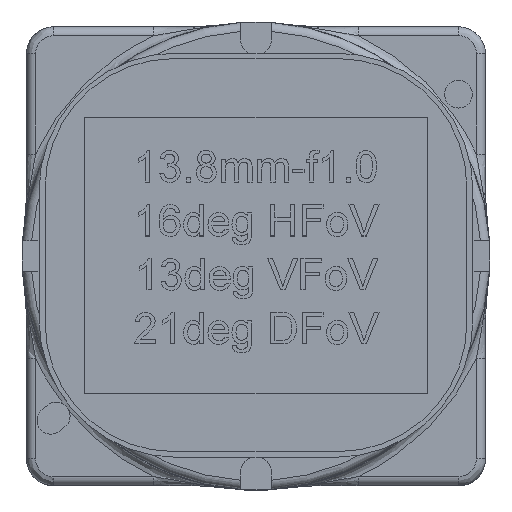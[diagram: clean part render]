
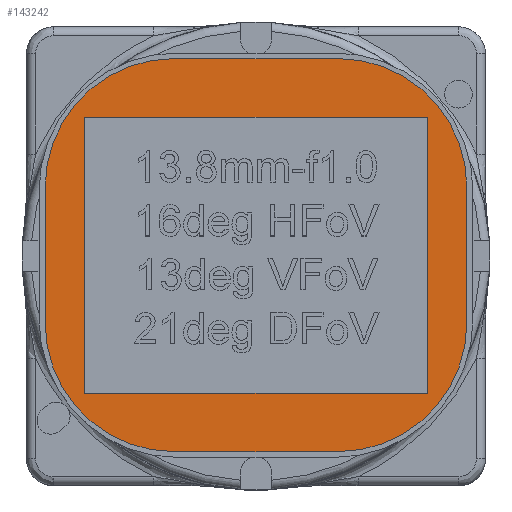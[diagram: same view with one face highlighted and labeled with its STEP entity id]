
A CAD part, top view. The second image highlights one B-rep face of the part: STEP entity #143242.
In plain terms, the highlighted planar face has unit normal (0, 0, 1).
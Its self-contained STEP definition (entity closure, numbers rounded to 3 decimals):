
#1724 = EDGE_CURVE ( 'NONE', #188745, #3513, #164286, .T. ) ;
#3513 = VERTEX_POINT ( 'NONE', #54895 ) ;
#5474 = CARTESIAN_POINT ( 'NONE',  ( -4.578, 10.918, 37.5 ) ) ;
#9085 = CARTESIAN_POINT ( 'NONE',  ( 4.578, 3.78, 37.5 ) ) ;
#9433 = EDGE_CURVE ( 'NONE', #31171, #166059, #131539, .T. ) ;
#11350 = CARTESIAN_POINT ( 'NONE',  ( -9.526, -7.666, 37.5 ) ) ;
#12807 = ORIENTED_EDGE ( 'NONE', *, *, #114591, .F. ) ;
#13639 = CARTESIAN_POINT ( 'NONE',  ( 9.526, 7.666, 37.5 ) ) ;
#14367 = FACE_BOUND ( 'NONE', #24774, .T. ) ;
#17629 = VECTOR ( 'NONE', #172258, 1000. ) ;
#18169 = VECTOR ( 'NONE', #26544, 1000. ) ;
#18652 = CARTESIAN_POINT ( 'NONE',  ( 4.578, -10.918, 37.5 ) ) ;
#19014 = FACE_OUTER_BOUND ( 'NONE', #47348, .T. ) ;
#22780 = LINE ( 'NONE', #144827, #18169 ) ;
#23110 = ORIENTED_EDGE ( 'NONE', *, *, #101807, .T. ) ;
#24010 = DIRECTION ( 'NONE',  ( -1., 0., 0. ) ) ;
#24774 = EDGE_LOOP ( 'NONE', ( #169963, #46962, #174154, #12807 ) ) ;
#26544 = DIRECTION ( 'NONE',  ( 0., -1., 0. ) ) ;
#28900 = CIRCLE ( 'NONE', #125350, 7.139 ) ;
#31171 = VERTEX_POINT ( 'NONE', #11350 ) ;
#32591 = VERTEX_POINT ( 'NONE', #93371 ) ;
#33169 = VERTEX_POINT ( 'NONE', #190156 ) ;
#33388 = EDGE_CURVE ( 'NONE', #33627, #33169, #120262, .T. ) ;
#33627 = VERTEX_POINT ( 'NONE', #13639 ) ;
#37740 = DIRECTION ( 'NONE',  ( 0., 0., 1. ) ) ;
#38530 = VECTOR ( 'NONE', #130622, 1000. ) ;
#39161 = EDGE_CURVE ( 'NONE', #134899, #73203, #114900, .T. ) ;
#41236 = CARTESIAN_POINT ( 'NONE',  ( 4.578, 3.78, 37.5 ) ) ;
#43879 = CARTESIAN_POINT ( 'NONE',  ( -4.578, 3.78, 37.5 ) ) ;
#44410 = CARTESIAN_POINT ( 'NONE',  ( 4.578, -10.918, 37.5 ) ) ;
#44777 = ORIENTED_EDGE ( 'NONE', *, *, #83854, .T. ) ;
#46929 = DIRECTION ( 'NONE',  ( 0., 0., 1. ) ) ;
#46962 = ORIENTED_EDGE ( 'NONE', *, *, #96251, .F. ) ;
#47348 = EDGE_LOOP ( 'NONE', ( #88869, #78434, #44777, #99663, #91217, #88371, #23110, #158693 ) ) ;
#52993 = CARTESIAN_POINT ( 'NONE',  ( -4.578, 10.918, 37.5 ) ) ;
#54895 = CARTESIAN_POINT ( 'NONE',  ( -4.578, -10.918, 37.5 ) ) ;
#56167 = DIRECTION ( 'NONE',  ( -1., 0., 0. ) ) ;
#58841 = DIRECTION ( 'NONE',  ( -1., 0., 0. ) ) ;
#68079 = AXIS2_PLACEMENT_3D ( 'NONE', #135479, #46929, #150310 ) ;
#73203 = VERTEX_POINT ( 'NONE', #136704 ) ;
#76308 = CARTESIAN_POINT ( 'NONE',  ( 11.716, 3.78, 37.5 ) ) ;
#78434 = ORIENTED_EDGE ( 'NONE', *, *, #126092, .T. ) ;
#81571 = CARTESIAN_POINT ( 'NONE',  ( -11.716, -3.78, 37.5 ) ) ;
#83854 = EDGE_CURVE ( 'NONE', #115203, #91640, #28900, .T. ) ;
#83886 = LINE ( 'NONE', #52993, #157926 ) ;
#86125 = LINE ( 'NONE', #106732, #160146 ) ;
#88339 = LINE ( 'NONE', #44410, #162334 ) ;
#88371 = ORIENTED_EDGE ( 'NONE', *, *, #100491, .T. ) ;
#88869 = ORIENTED_EDGE ( 'NONE', *, *, #39161, .T. ) ;
#91217 = ORIENTED_EDGE ( 'NONE', *, *, #1724, .T. ) ;
#91640 = VERTEX_POINT ( 'NONE', #96406 ) ;
#93140 = CARTESIAN_POINT ( 'NONE',  ( 9.526, -7.666, 37.5 ) ) ;
#93182 = DIRECTION ( 'NONE',  ( 0., -1., 0. ) ) ;
#93371 = CARTESIAN_POINT ( 'NONE',  ( 11.716, -3.78, 37.5 ) ) ;
#96251 = EDGE_CURVE ( 'NONE', #166059, #33627, #191158, .T. ) ;
#96406 = CARTESIAN_POINT ( 'NONE',  ( -11.716, 3.78, 37.5 ) ) ;
#98246 = DIRECTION ( 'NONE',  ( -1., 0., 0. ) ) ;
#99663 = ORIENTED_EDGE ( 'NONE', *, *, #172687, .T. ) ;
#100491 = EDGE_CURVE ( 'NONE', #3513, #152388, #88339, .T. ) ;
#100918 = CARTESIAN_POINT ( 'NONE',  ( 9.526, 0., 37.5 ) ) ;
#101807 = EDGE_CURVE ( 'NONE', #152388, #32591, #159854, .T. ) ;
#103268 = AXIS2_PLACEMENT_3D ( 'NONE', #9085, #112509, #24010 ) ;
#106732 = CARTESIAN_POINT ( 'NONE',  ( -11.716, -3.78, 37.5 ) ) ;
#112509 = DIRECTION ( 'NONE',  ( 0., 0., 1. ) ) ;
#114591 = EDGE_CURVE ( 'NONE', #33169, #31171, #22780, .T. ) ;
#114900 = CIRCLE ( 'NONE', #103268, 7.139 ) ;
#115203 = VERTEX_POINT ( 'NONE', #5474 ) ;
#120262 = LINE ( 'NONE', #153395, #124874 ) ;
#122215 = VECTOR ( 'NONE', #129769, 1000. ) ;
#123604 = DIRECTION ( 'NONE',  ( -1., 0., 0. ) ) ;
#124874 = VECTOR ( 'NONE', #123604, 1000. ) ;
#125350 = AXIS2_PLACEMENT_3D ( 'NONE', #43879, #147348, #58841 ) ;
#126092 = EDGE_CURVE ( 'NONE', #73203, #115203, #83886, .T. ) ;
#126309 = CARTESIAN_POINT ( 'NONE',  ( -4.578, -3.78, 37.5 ) ) ;
#129769 = DIRECTION ( 'NONE',  ( 1., 0., 0. ) ) ;
#130622 = DIRECTION ( 'NONE',  ( 0., 1., 0. ) ) ;
#130934 = LINE ( 'NONE', #157424, #17629 ) ;
#131539 = LINE ( 'NONE', #159533, #122215 ) ;
#134899 = VERTEX_POINT ( 'NONE', #76308 ) ;
#135479 = CARTESIAN_POINT ( 'NONE',  ( 4.578, -3.78, 37.5 ) ) ;
#136704 = CARTESIAN_POINT ( 'NONE',  ( 4.578, 10.918, 37.5 ) ) ;
#141175 = DIRECTION ( 'NONE',  ( 1., 0., 0. ) ) ;
#143145 = AXIS2_PLACEMENT_3D ( 'NONE', #126309, #37740, #141175 ) ;
#143242 = ADVANCED_FACE ( 'NONE', ( #19014, #14367 ), #173684, .F. ) ;
#144727 = DIRECTION ( 'NONE',  ( 0., 0., -1. ) ) ;
#144827 = CARTESIAN_POINT ( 'NONE',  ( -9.526, 0., 37.5 ) ) ;
#145405 = EDGE_CURVE ( 'NONE', #32591, #134899, #130934, .T. ) ;
#147348 = DIRECTION ( 'NONE',  ( 0., 0., 1. ) ) ;
#150310 = DIRECTION ( 'NONE',  ( 1., 0., 0. ) ) ;
#152388 = VERTEX_POINT ( 'NONE', #18652 ) ;
#153395 = CARTESIAN_POINT ( 'NONE',  ( 0., 7.666, 37.5 ) ) ;
#157424 = CARTESIAN_POINT ( 'NONE',  ( 11.716, 3.78, 37.5 ) ) ;
#157926 = VECTOR ( 'NONE', #98246, 1000. ) ;
#158693 = ORIENTED_EDGE ( 'NONE', *, *, #145405, .T. ) ;
#159533 = CARTESIAN_POINT ( 'NONE',  ( 0., -7.666, 37.5 ) ) ;
#159854 = CIRCLE ( 'NONE', #68079, 7.139 ) ;
#160146 = VECTOR ( 'NONE', #93182, 1000. ) ;
#162334 = VECTOR ( 'NONE', #162682, 1000. ) ;
#162682 = DIRECTION ( 'NONE',  ( 1., 0., 0. ) ) ;
#162947 = AXIS2_PLACEMENT_3D ( 'NONE', #41236, #144727, #56167 ) ;
#164286 = CIRCLE ( 'NONE', #143145, 7.139 ) ;
#166059 = VERTEX_POINT ( 'NONE', #93140 ) ;
#169963 = ORIENTED_EDGE ( 'NONE', *, *, #33388, .F. ) ;
#172258 = DIRECTION ( 'NONE',  ( 0., 1., 0. ) ) ;
#172687 = EDGE_CURVE ( 'NONE', #91640, #188745, #86125, .T. ) ;
#173684 = PLANE ( 'NONE',  #162947 ) ;
#174154 = ORIENTED_EDGE ( 'NONE', *, *, #9433, .F. ) ;
#188745 = VERTEX_POINT ( 'NONE', #81571 ) ;
#190156 = CARTESIAN_POINT ( 'NONE',  ( -9.526, 7.666, 37.5 ) ) ;
#191158 = LINE ( 'NONE', #100918, #38530 ) ;
